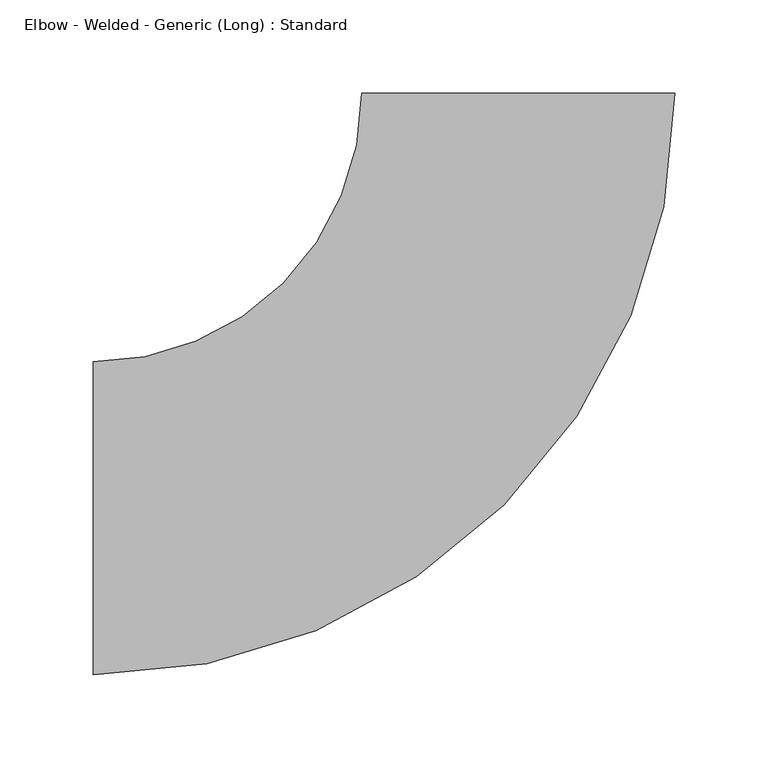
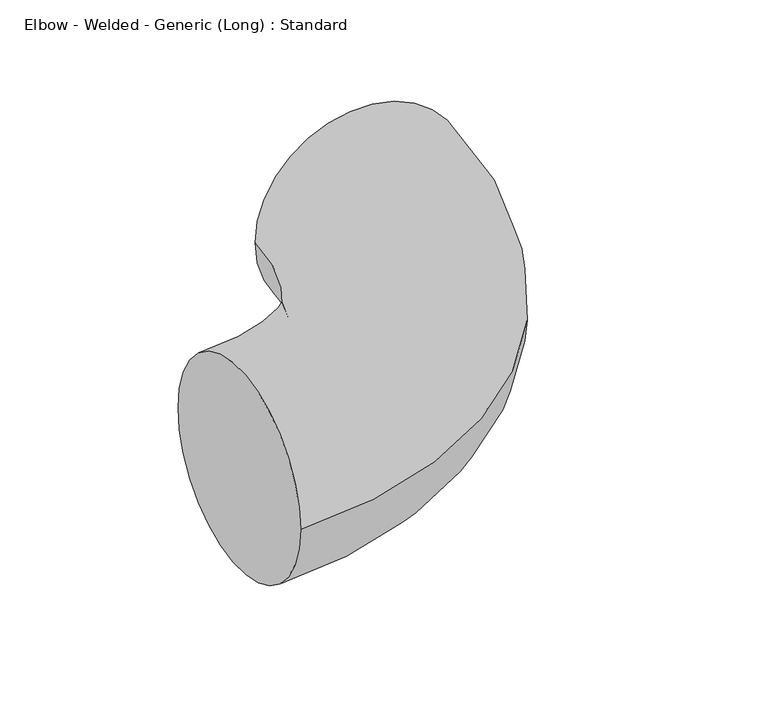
"""IFC4 building model written with IfcOpenShell, lengths in millimetres: pipe fitting geometry, Elbow - Welded - Generic (Long) : Standard."""

from ifc_helpers import new_model, si_unit, point, frame, origin, place, context, project, spatial, circle_curve, ellipse_curve, trimmed, source, transform, mapped, element, save
from ifc_brep_helpers import plane_surface, revolved_surface, advanced_brep


def elbow_welded_generic_long_standard_9175adc5(model_context):
    return source(origin(), model_context, "Body", "AdvancedBrep", [
        advanced_brep(
        [(-228.6, -84.1375, 0.0), (-228.6, 84.1375, 0.0), (84.1438656, 228.597657, 0.0), (-84.1311344, 228.6023428, 0.0)],
        [
            (0, 1, circle_curve(frame((-228.6, 0.0, 0.0), z_axis=(-1.0, 0.0, 0.0), x_axis=(0.0, 1.0, 0.0)), 84.1375)),
            (1, 0, circle_curve(frame((-228.6, 0.0, 0.0), z_axis=(-1.0, 0.0, 0.0), x_axis=(0.0, 1.0, 0.0)), 84.1375)),
            (2, 3, circle_curve(frame((0.0063656, 228.5999999, 0.0), z_axis=(2.7846078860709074e-05, 0.9999999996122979, 0.0), x_axis=(-0.9999999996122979, 2.7846078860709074e-05, 0.0)), 84.1375)),
            (3, 2, circle_curve(frame((0.0063656, 228.5999999, 0.0), z_axis=(2.7846078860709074e-05, 0.9999999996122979, 0.0), x_axis=(-0.9999999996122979, 2.7846078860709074e-05, 0.0)), 84.1375)),
            (3, 1, circle_curve(frame((-228.6, 228.6063657, 0.0), z_axis=(0.0, 0.0, -1.0), x_axis=(0.0, -1.0, 0.0)), 144.4688657)),
            (0, 2, circle_curve(frame((-228.6, 228.6063657, 0.0), z_axis=(0.0, 0.0, 1.0), x_axis=(0.0, -1.0, 0.0)), 312.7438657)),
        ],
        [
            plane_surface(frame((-228.6, 0.0, 0.0), z_axis=(-1.0, 0.0, 0.0), x_axis=(0.0, 0.0, 1.0))),
            plane_surface(frame((0.0063656, 228.5999999, 0.0), z_axis=(2.7846078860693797e-05, 0.999999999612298, 0.0), x_axis=(0.0, 0.0, 1.0))),
            revolved_surface(trimmed(ellipse_curve(frame((-228.6, 0.0, 0.0), z_axis=(-1.0, 0.0, 0.0), x_axis=(0.0, 1.0, 0.0)), 84.1375, 84.1375), [point((-228.6, -84.1375, 0.0))], [point((-228.6, 84.1375, 0.0))], True, "CARTESIAN"), (-228.6, 228.6063657, 0.0), (0.0, 0.0, 1.0)),
            revolved_surface(trimmed(ellipse_curve(frame((-228.6, 0.0, 0.0), z_axis=(-1.0, 0.0, 0.0), x_axis=(0.0, 1.0, 0.0)), 84.1375, 84.1375), [point((-228.6, 84.1375, 0.0))], [point((-228.6, -84.1375, 0.0))], True, "CARTESIAN"), (-228.6, 228.6063657, 0.0), (0.0, 0.0, 1.0)),
        ],
        [
            (0, [[1, 2]]),
            (1, [[3, 4]]),
            (2, [[5, -1, 6, -4]]),
            (3, [[-6, -2, -5, -3]]),
        ],
    ),
    ])


if __name__ == "__main__":
    model = new_model("IFC4")
    model_context = context("Model", 3, world=origin())
    ifc_project = project(units=[si_unit("LENGTHUNIT", "METRE", prefix="MILLI")], contexts=[model_context])
    site = spatial("IfcSite", under=ifc_project)
    building = spatial("IfcBuilding", under=site)
    placement = place(None, origin())
    elbow_welded_generic_long_standard_shape = elbow_welded_generic_long_standard_9175adc5(model_context)
    element("IfcPipeFitting", 1, ObjectType="Elbow - Welded - Generic (Long) : Standard", at=placement, inside=building, context=model_context, shape_type="MappedRepresentation", body=[
        mapped(elbow_welded_generic_long_standard_shape, transform((0.0, 0.0, 0.0), x_axis=(1.0, 0.0, 0.0), y_axis=(0.0, 1.0, 0.0), z_axis=(0.0, 0.0, 1.0))),
    ])
    save(model, "model.ifc")
